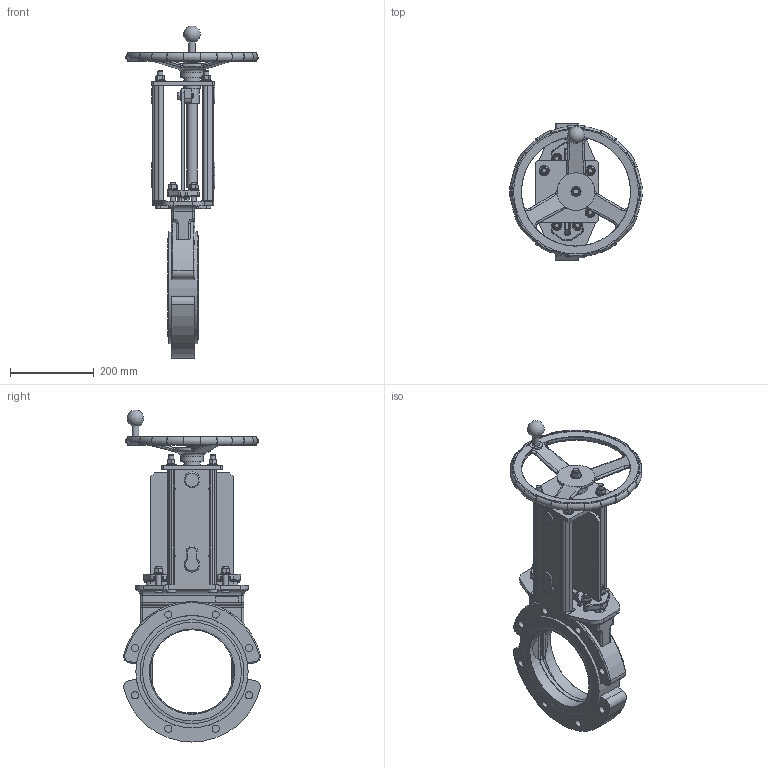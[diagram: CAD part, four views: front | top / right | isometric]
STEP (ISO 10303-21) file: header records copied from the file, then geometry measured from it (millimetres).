
FILE_DESCRIPTION(/* description */ (''),/* implementation_level */ '2;1');
FILE_NAME(/* name */ 'F:\Emir\3D-block special\WB\WB14-WFL-DN200-PN10-HW_Shrinkwrap_1.stp',/* time_stamp */ '2018-09-10T16:58:41+02:00',/* author */ ('emimus'),/* organization */ (''),/* preprocessor_version */ 'ST-DEVELOPER v17.2',/* originating_system */ 'Autodesk Inventor 2019',/* authorisation */ '');
FILE_SCHEMA (('CONFIG_CONTROL_DESIGN'));
Length unit declared in the file: millimetre
Products named in the file (1): WB14-WFL-DN200-PN10-HW_Shrinkwrap_1
Bounding box: 316.54 x 326.88 x 792.85 mm (x, y, z)
Volume: 6213593.3 mm3; surface area: 1102078.5 mm2
Topology: 1 solids, 1 shells, 1275 faces, 3334 edges, 2107 vertices
Faces by surface type: plane 490, cylinder 437, torus 157, bspline 92, cone 62, sphere 37
Full cylindrical faces by diameter (mm): 3.7 x8, 8.376 x1, 10.106 x4, 12 x23, 13 x8, 15 x1, 16 x1, 16.63 x2, 17.294 x16, 24 x14, 28 x2, 38 x2, 40 x2, 55 x1, 200 x2, 204 x2, 248 x2, 268 x1, 298 x1
Entity records: 42741 total; most frequent: CARTESIAN_POINT 11107, DIRECTION 6874, ORIENTED_EDGE 6648, EDGE_CURVE 3324, AXIS2_PLACEMENT_3D 2752, VERTEX_POINT 2107, CIRCLE 1496, EDGE_LOOP 1397
